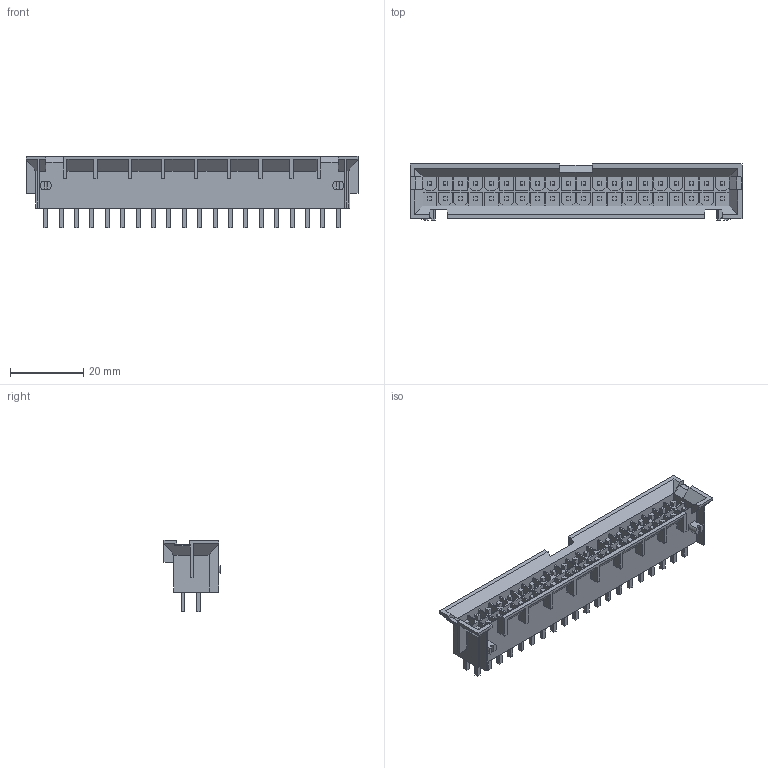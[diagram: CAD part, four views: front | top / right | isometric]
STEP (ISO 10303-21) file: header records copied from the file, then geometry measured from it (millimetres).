
FILE_DESCRIPTION((''),'2;1');
FILE_NAME('439730002','2015-08-26T',('me'),(''),'PRO/ENGINEER BY PARAMETRIC TECHNOLOGY CORPORATION, 2011490','PRO/ENGINEER BY PARAMETRIC TECHNOLOGY CORPORATION, 2011490','');
FILE_SCHEMA(('CONFIG_CONTROL_DESIGN'));
Length unit declared in the file: millimetre
Products named in the file (1): 439730002
Bounding box: 90.58 x 15.3 x 19.41 mm (x, y, z)
Volume: 6565.7 mm3; surface area: 12422.4 mm2
Topology: 1 solids, 1 shells, 732 faces, 2008 edges, 1362 vertices
Faces by surface type: plane 725, cylinder 7
Entity records: 22738 total; most frequent: CARTESIAN_POINT 4024, ORIENTED_EDGE 3852, DIRECTION 3566, EDGE_CURVE 1926, VECTOR 1912, LINE 1912, VERTEX_POINT 1278, AXIS2_PLACEMENT_3D 827
